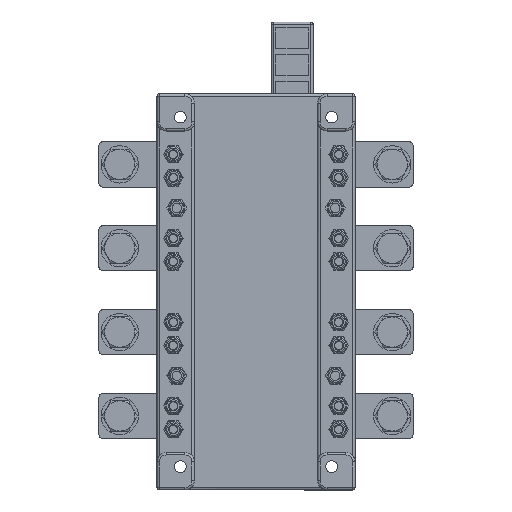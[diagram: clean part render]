
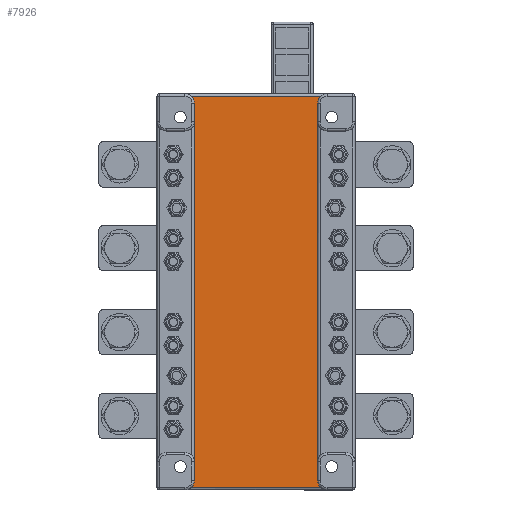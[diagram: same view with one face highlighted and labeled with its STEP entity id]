
A CAD part, top view. The second image highlights one B-rep face of the part: STEP entity #7926.
In plain terms, the highlighted planar face has unit normal (0, 0, 1).
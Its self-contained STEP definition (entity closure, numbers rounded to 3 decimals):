
#29=CARTESIAN_POINT('',(-30.5,4.,6.));
#30=DIRECTION('',(0.,0.,-1.));
#31=DIRECTION('',(1.,0.,0.));
#32=AXIS2_PLACEMENT_3D('',#29,#30,#31);
#2016=CARTESIAN_POINT('',(27.854,1.,6.));
#2018=CARTESIAN_POINT('',(30.5,4.,6.));
#2019=DIRECTION('',(0.,0.,-1.));
#2020=DIRECTION('',(-0.661,-0.75,0.));
#2021=AXIS2_PLACEMENT_3D('',#2018,#2019,#2020);
#2027=DIRECTION('',(0.,1.,0.));
#2028=VECTOR('',#2027,162.);
#2029=CARTESIAN_POINT('',(26.5,4.,6.));
#2030=LINE('',#2029,#2028);
#2031=DIRECTION('',(-1.,0.,0.));
#2032=VECTOR('',#2031,55.708);
#2033=CARTESIAN_POINT('',(27.854,1.,6.));
#2034=LINE('',#2033,#2032);
#2035=DIRECTION('',(0.,-1.,0.));
#2036=VECTOR('',#2035,162.);
#2037=CARTESIAN_POINT('',(-26.5,166.,6.));
#2038=LINE('',#2037,#2036);
#2063=CARTESIAN_POINT('',(30.5,166.,6.));
#2064=DIRECTION('',(0.,0.,-1.));
#2065=DIRECTION('',(-1.,0.,0.));
#2066=AXIS2_PLACEMENT_3D('',#2063,#2064,#2065);
#2118=CARTESIAN_POINT('',(-27.854,169.,6.));
#2120=CARTESIAN_POINT('',(-30.5,166.,6.));
#2121=DIRECTION('',(0.,0.,-1.));
#2122=DIRECTION('',(0.661,0.75,0.));
#2123=AXIS2_PLACEMENT_3D('',#2120,#2121,#2122);
#2129=DIRECTION('',(-1.,0.,0.));
#2130=VECTOR('',#2129,55.708);
#2131=CARTESIAN_POINT('',(27.854,169.,6.));
#2132=LINE('',#2131,#2130);
#4818=CARTESIAN_POINT('',(-26.5,4.,6.));
#4820=VERTEX_POINT('',#4818);
#4841=CARTESIAN_POINT('',(26.5,4.,6.));
#4843=VERTEX_POINT('',#4841);
#4865=CARTESIAN_POINT('',(-26.5,166.,6.));
#4867=VERTEX_POINT('',#4865);
#4890=CARTESIAN_POINT('',(26.5,166.,6.));
#4892=VERTEX_POINT('',#4890);
#4964=CARTESIAN_POINT('',(27.854,169.,6.));
#4965=VERTEX_POINT('',#4964);
#4968=VERTEX_POINT('',#2118);
#4971=VERTEX_POINT('',#2016);
#4973=CARTESIAN_POINT('',(-27.854,1.,6.));
#4974=VERTEX_POINT('',#4973);
#7906=CARTESIAN_POINT('',(0.,0.,6.));
#7907=DIRECTION('',(0.,0.,1.));
#7908=DIRECTION('',(0.,1.,0.));
#7909=AXIS2_PLACEMENT_3D('',#7906,#7907,#7908);
#7910=PLANE('',#7909);
#7912=ORIENTED_EDGE('',*,*,#7911,.F.);
#7913=ORIENTED_EDGE('',*,*,#7885,.F.);
#7914=ORIENTED_EDGE('',*,*,#7898,.T.);
#7915=ORIENTED_EDGE('',*,*,#5657,.F.);
#7917=ORIENTED_EDGE('',*,*,#7916,.F.);
#7919=ORIENTED_EDGE('',*,*,#7918,.F.);
#7921=ORIENTED_EDGE('',*,*,#7920,.F.);
#7923=ORIENTED_EDGE('',*,*,#7922,.F.);
#7924=EDGE_LOOP('',(#7912,#7913,#7914,#7915,#7917,#7919,#7921,#7923));
#7925=FACE_OUTER_BOUND('',#7924,.F.);
#7926=ADVANCED_FACE('',(#7925),#7910,.T.);
#33=CIRCLE('',#32,4.);
#2022=CIRCLE('',#2021,4.);
#2067=CIRCLE('',#2066,4.);
#2124=CIRCLE('',#2123,4.);
#5657=EDGE_CURVE('',#4820,#4974,#33,.T.);
#7885=EDGE_CURVE('',#4971,#4843,#2022,.T.);
#7898=EDGE_CURVE('',#4971,#4974,#2034,.T.);
#7911=EDGE_CURVE('',#4843,#4892,#2030,.T.);
#7916=EDGE_CURVE('',#4867,#4820,#2038,.T.);
#7918=EDGE_CURVE('',#4968,#4867,#2124,.T.);
#7920=EDGE_CURVE('',#4965,#4968,#2132,.T.);
#7922=EDGE_CURVE('',#4892,#4965,#2067,.T.);
